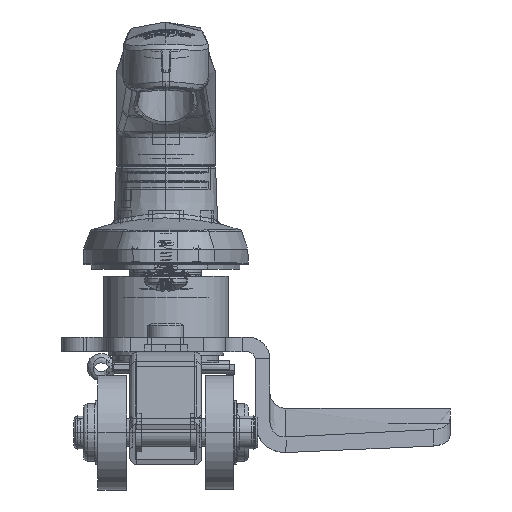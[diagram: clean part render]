
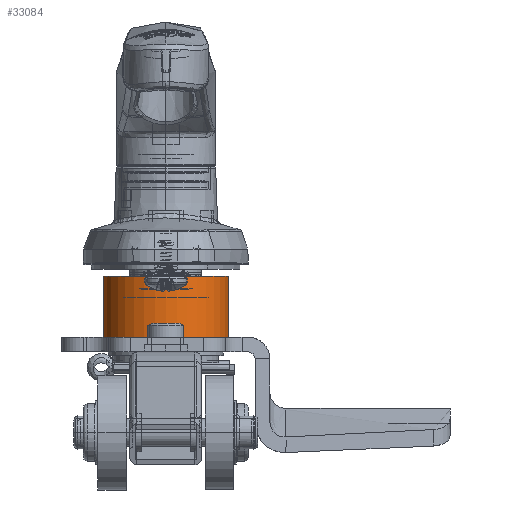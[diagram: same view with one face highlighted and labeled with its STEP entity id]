
A CAD part, front view. The second image highlights one B-rep face of the part: STEP entity #33084.
In plain terms, the highlighted cylindrical face has radius 13.894 mm (diameter 27.788 mm), a partial arc.
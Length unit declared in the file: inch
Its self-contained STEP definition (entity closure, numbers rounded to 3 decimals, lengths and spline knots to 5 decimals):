
#420 = CARTESIAN_POINT ( 'NONE',  ( 0.547, 0., 0.531 ) ) ;
#431 = VECTOR ( 'NONE', #79764, 39.37008 ) ;
#1203 = LINE ( 'NONE', #420, #54045 ) ;
#4316 = CARTESIAN_POINT ( 'NONE',  ( 0., 0., 0.531 ) ) ;
#6228 = EDGE_CURVE ( 'NONE', #45956, #53206, #20447, .T. ) ;
#6351 = EDGE_LOOP ( 'NONE', ( #28052, #87206, #68108, #84667 ) ) ;
#7359 = DIRECTION ( 'NONE',  ( 0., 0., -1. ) ) ;
#11254 = DIRECTION ( 'NONE',  ( 0., 0., -1. ) ) ;
#14713 = DIRECTION ( 'NONE',  ( 0., 0., 1. ) ) ;
#18169 = DIRECTION ( 'NONE',  ( -1., 0., 0. ) ) ;
#20447 = CIRCLE ( 'NONE', #77094, 0.547 ) ;
#21846 = VERTEX_POINT ( 'NONE', #48756 ) ;
#28052 = ORIENTED_EDGE ( 'NONE', *, *, #44968, .F. ) ;
#33084 = ADVANCED_FACE ( 'NONE', ( #60217 ), #41981, .T. ) ;
#39470 = DIRECTION ( 'NONE',  ( 0., 0., 1. ) ) ;
#40514 = CIRCLE ( 'NONE', #48232, 0.547 ) ;
#41981 = CYLINDRICAL_SURFACE ( 'NONE', #63313, 0.547 ) ;
#44968 = EDGE_CURVE ( 'NONE', #53206, #59145, #1203, .T. ) ;
#45317 = CARTESIAN_POINT ( 'NONE',  ( 0.547, 0., 0.531 ) ) ;
#45956 = VERTEX_POINT ( 'NONE', #57926 ) ;
#48232 = AXIS2_PLACEMENT_3D ( 'NONE', #55967, #14713, #62853 ) ;
#48756 = CARTESIAN_POINT ( 'NONE',  ( -0.547, 0., 0. ) ) ;
#52132 = CARTESIAN_POINT ( 'NONE',  ( 0.547, 0., 0. ) ) ;
#53206 = VERTEX_POINT ( 'NONE', #45317 ) ;
#54045 = VECTOR ( 'NONE', #7359, 39.37008 ) ;
#55797 = EDGE_CURVE ( 'NONE', #21846, #59145, #40514, .T. ) ;
#55967 = CARTESIAN_POINT ( 'NONE',  ( 0., 0., 0. ) ) ;
#57926 = CARTESIAN_POINT ( 'NONE',  ( -0.547, 0., 0.531 ) ) ;
#59145 = VERTEX_POINT ( 'NONE', #52132 ) ;
#60217 = FACE_OUTER_BOUND ( 'NONE', #6351, .T. ) ;
#62853 = DIRECTION ( 'NONE',  ( 1., 0., 0. ) ) ;
#63313 = AXIS2_PLACEMENT_3D ( 'NONE', #4316, #11254, #18169 ) ;
#68108 = ORIENTED_EDGE ( 'NONE', *, *, #77862, .T. ) ;
#69355 = LINE ( 'NONE', #72858, #431 ) ;
#72858 = CARTESIAN_POINT ( 'NONE',  ( -0.547, 0., 0.531 ) ) ;
#77094 = AXIS2_PLACEMENT_3D ( 'NONE', #80715, #39470, #87628 ) ;
#77862 = EDGE_CURVE ( 'NONE', #45956, #21846, #69355, .T. ) ;
#79764 = DIRECTION ( 'NONE',  ( 0., 0., -1. ) ) ;
#80715 = CARTESIAN_POINT ( 'NONE',  ( 0., 0., 0.531 ) ) ;
#84667 = ORIENTED_EDGE ( 'NONE', *, *, #55797, .T. ) ;
#87206 = ORIENTED_EDGE ( 'NONE', *, *, #6228, .F. ) ;
#87628 = DIRECTION ( 'NONE',  ( 1., 0., 0. ) ) ;
